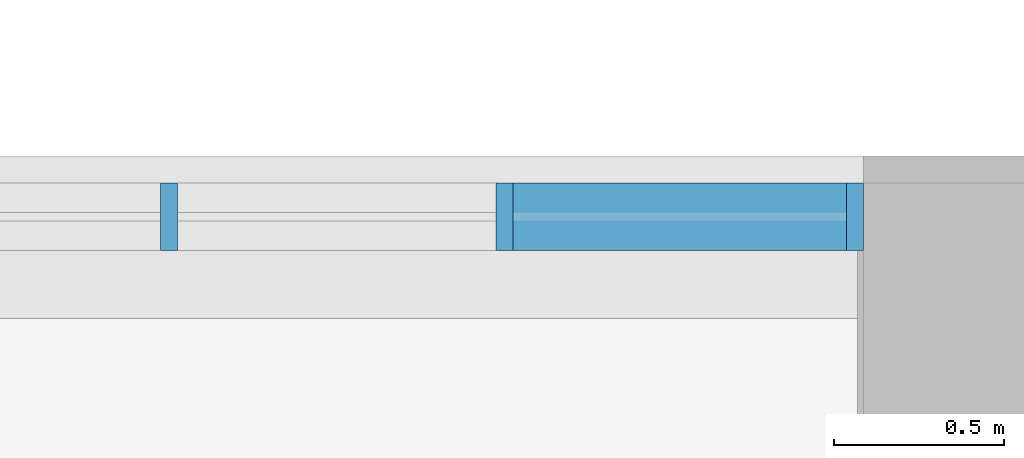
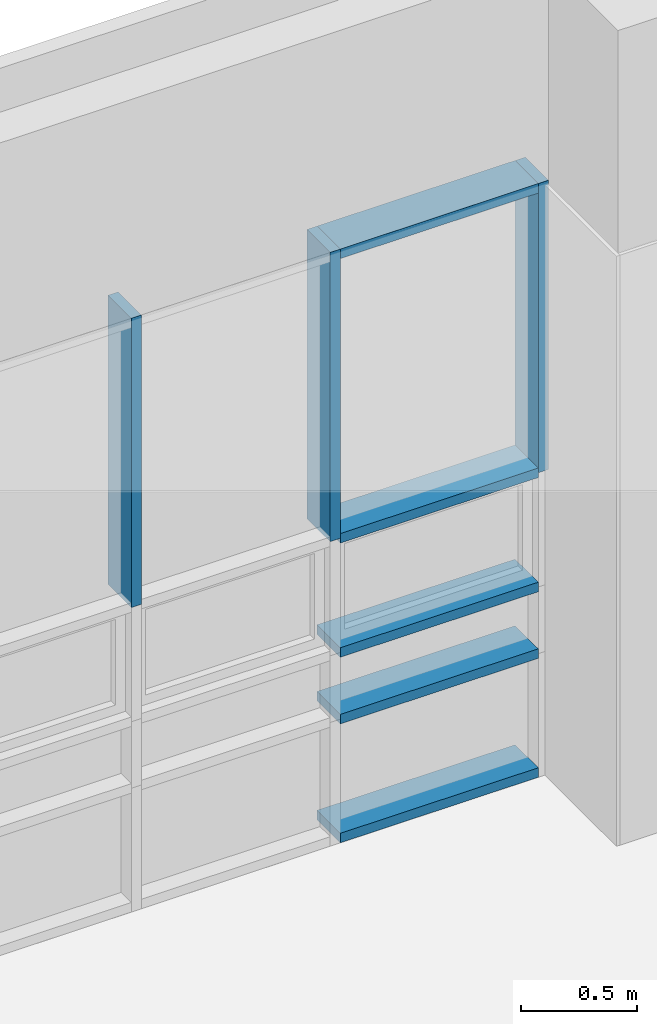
# One storey, part 10 of 74: 8 members, 1 element without a shape of its own.
"""IFC2X3 building model written with IfcOpenShell, lengths in millimetres."""

from ifc_helpers import new_model, entity, si_unit, converted_unit, derived_unit, direction, frame, origin, origin_2d_with_axis, place, context, subcontext, project, spatial, rectangle, extrude, source, transform, mapped, material, type_object, type_shapes, element, aggregate, save


model = new_model("IFC2X3")

# Units and contexts
model_context = context("Model", 3, precision=0.01, world=origin(), true_north=direction((6.123031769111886e-17, 1.0)))
body_context = subcontext(model_context, "Body", "Model", "MODEL_VIEW")
ifc_project = project(units=[si_unit("LENGTHUNIT", "METRE", prefix="MILLI"), si_unit("AREAUNIT", "SQUARE_METRE"), si_unit("VOLUMEUNIT", "CUBIC_METRE"), converted_unit("PLANEANGLEUNIT", "DEGREE", entity("IfcRatioMeasure", 0.017453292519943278), si_unit("PLANEANGLEUNIT", "RADIAN"), dimensions=[0, 0, 0, 0, 0, 0, 0]), si_unit("MASSUNIT", "GRAM", prefix="KILO"), derived_unit("MASSDENSITYUNIT", [(si_unit("MASSUNIT", "GRAM", prefix="KILO"), 1), (si_unit("LENGTHUNIT", "METRE"), -3)]), derived_unit("MOMENTOFINERTIAUNIT", [(si_unit("LENGTHUNIT", "METRE"), 4)]), si_unit("TIMEUNIT", "SECOND"), si_unit("FREQUENCYUNIT", "HERTZ"), si_unit("THERMODYNAMICTEMPERATUREUNIT", "DEGREE_CELSIUS"), derived_unit("THERMALTRANSMITTANCEUNIT", [(si_unit("MASSUNIT", "GRAM", prefix="KILO"), 1), (si_unit("THERMODYNAMICTEMPERATUREUNIT", "KELVIN"), -1), (si_unit("TIMEUNIT", "SECOND"), -3)]), derived_unit("VOLUMETRICFLOWRATEUNIT", [(si_unit("LENGTHUNIT", "METRE"), 3), (si_unit("TIMEUNIT", "SECOND"), -1)]), derived_unit("MASSFLOWRATEUNIT", [(si_unit("MASSUNIT", "GRAM", prefix="KILO"), 1), (si_unit("TIMEUNIT", "SECOND"), -1)]), derived_unit("ROTATIONALFREQUENCYUNIT", [(si_unit("TIMEUNIT", "SECOND"), -1)]), si_unit("ELECTRICCURRENTUNIT", "AMPERE"), si_unit("ELECTRICVOLTAGEUNIT", "VOLT"), si_unit("POWERUNIT", "WATT"), si_unit("FORCEUNIT", "NEWTON", prefix="KILO"), si_unit("ILLUMINANCEUNIT", "LUX"), si_unit("LUMINOUSFLUXUNIT", "LUMEN"), si_unit("LUMINOUSINTENSITYUNIT", "CANDELA"), derived_unit("USERDEFINED", [(si_unit("MASSUNIT", "GRAM", prefix="KILO"), -1), (si_unit("LENGTHUNIT", "METRE"), -2), (si_unit("TIMEUNIT", "SECOND"), 3), (si_unit("LUMINOUSFLUXUNIT", "LUMEN"), 1)]), derived_unit("SOUNDPOWERUNIT", [(si_unit("MASSUNIT", "GRAM", prefix="KILO"), 1), (si_unit("LENGTHUNIT", "METRE"), 2), (si_unit("TIMEUNIT", "SECOND"), -3)]), derived_unit("SOUNDPRESSUREUNIT", [(si_unit("MASSUNIT", "GRAM", prefix="KILO"), 1), (si_unit("LENGTHUNIT", "METRE"), -1), (si_unit("TIMEUNIT", "SECOND"), -2)]), derived_unit("LINEARVELOCITYUNIT", [(si_unit("LENGTHUNIT", "METRE"), 1), (si_unit("TIMEUNIT", "SECOND"), -1)]), si_unit("PRESSUREUNIT", "PASCAL"), derived_unit("USERDEFINED", [(si_unit("LENGTHUNIT", "METRE"), -2), (si_unit("MASSUNIT", "GRAM", prefix="KILO"), 1), (si_unit("TIMEUNIT", "SECOND"), -2)]), derived_unit("LINEARFORCEUNIT", [(si_unit("MASSUNIT", "GRAM", prefix="KILO"), 1), (si_unit("LENGTHUNIT", "METRE"), 1), (si_unit("TIMEUNIT", "SECOND"), -2), (si_unit("LENGTHUNIT", "METRE"), -1)]), derived_unit("PLANARFORCEUNIT", [(si_unit("MASSUNIT", "GRAM", prefix="KILO"), 1), (si_unit("LENGTHUNIT", "METRE"), 1), (si_unit("TIMEUNIT", "SECOND"), -2), (si_unit("LENGTHUNIT", "METRE"), -2)])], contexts=[model_context])

# Site, building, storey
site_placement = place(None, frame((-14167.972527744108, -657.2125860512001, 0.0)))
site = spatial("IfcSite", under=ifc_project, at=site_placement, Name="Default", CompositionType="ELEMENT")
building_placement = place(site_placement, origin())
building = spatial("IfcBuilding", under=site, at=building_placement, Name="Sample Building", CompositionType="ELEMENT")
storey_placement = place(building_placement, frame((0.0, 0.0, 4800.0)))
storey = spatial("IfcBuildingStorey", under=building, at=storey_placement, Name="지상 2층", CompositionType="ELEMENT", Elevation=4800.000000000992)

# Curtain wall, members
curtain_wall_type = type_object("IfcCurtainWallType", Name="커튼월:CW112-스테인리스 스틸 커튼월", PredefinedType="NOTDEFINED")
curtain_wall_placement = place(storey_placement, frame((0.0, 0.0, -4800.0)))
curtain_wall = element("IfcCurtainWall", 1, at=curtain_wall_placement, inside=storey, type_object=curtain_wall_type, Name="커튼월:CW112-스테인리스 스틸 커튼월", ObjectType="커튼월:CW112-스테인리스 스틸 커튼월")
ifc_material = material(Name="<Unnamed>")
member_type_1 = type_object("IfcMemberType", Name="직사각형 멀리언:CW200-직사각형 멀리언 50x200mm", PredefinedType="MULLION", material=ifc_material)
shared_shape_1 = source(origin(), body_context, "Body", "SweptSolid", [
    extrude(rectangle(XDim=200.0, YDim=50.0, at=origin_2d_with_axis()), frame((-25.0, 0.0, -1520.0), z_axis=(0.0, 0.0, 1.0), x_axis=(0.0, -1.0, 0.0)), (0.0, 0.0, 1.0), 1520.0000000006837),
])
type_shapes(member_type_1, [shared_shape_1])
member_1_placement = place(curtain_wall_placement, frame((50667.981214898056, 29157.212295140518, 8000.0)))
member_1 = element("IfcMember", 2, at=member_1_placement, type_object=member_type_1, material=ifc_material, Name="직사각형 멀리언:CW200-직사각형 멀리언 50x200mm", ObjectType="직사각형 멀리언:CW200-직사각형 멀리언 50x200mm", context=body_context, shape_type="MappedRepresentation", body=[
    mapped(shared_shape_1, transform((0.0, 0.0, 0.0), scale=1.0)),
])
member_type_2 = type_object("IfcMemberType", Name="직사각형 멀리언:CW200-직사각형 멀리언 50x200mm", PredefinedType="MULLION", material=ifc_material)
shared_shape_2 = source(origin(), body_context, "Body", "SweptSolid", [
    extrude(rectangle(XDim=200.0, YDim=50.0, at=origin_2d_with_axis()), frame((0.0, 0.0, -1520.0), z_axis=(0.0, 0.0, 1.0), x_axis=(0.0, -1.0, 0.0)), (0.0, 0.0, 1.0), 1520.0000000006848),
])
type_shapes(member_type_2, [shared_shape_2])
member_2_placement = place(curtain_wall_placement, frame((49608.65776964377, 29157.212295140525, 6480.0), z_axis=(0.0, 0.0, -1.0), x_axis=(-1.0, 0.0, 0.0)))
member_2 = element("IfcMember", 3, at=member_2_placement, type_object=member_type_2, material=ifc_material, Name="직사각형 멀리언:CW200-직사각형 멀리언 50x200mm", ObjectType="직사각형 멀리언:CW200-직사각형 멀리언 50x200mm", context=body_context, shape_type="MappedRepresentation", body=[
    mapped(shared_shape_2, transform((0.0, 0.0, 0.0), scale=1.0)),
])
member_3_placement = place(curtain_wall_placement, frame((48619.768880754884, 29157.212295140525, 6480.0), z_axis=(0.0, 0.0, -1.0), x_axis=(-1.0, 0.0, 0.0)))
member_3 = element("IfcMember", 4, at=member_3_placement, type_object=member_type_2, material=ifc_material, Name="직사각형 멀리언:CW200-직사각형 멀리언 50x200mm", ObjectType="직사각형 멀리언:CW200-직사각형 멀리언 50x200mm", context=body_context, shape_type="MappedRepresentation", body=[
    mapped(shared_shape_2, transform((0.0, 0.0, 0.0), scale=1.0)),
])
member_type_3 = type_object("IfcMemberType", Name="직사각형 멀리언:CW200-직사각형 멀리언 50x200mm", PredefinedType="MULLION", material=ifc_material)
shared_shape_3 = source(origin(), body_context, "Body", "SweptSolid", [
    extrude(rectangle(XDim=200.0, YDim=50.0, at=origin_2d_with_axis()), frame((-25.0, 0.0, -984.3234452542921), z_axis=(0.0, 0.0, 1.0), x_axis=(0.0, -1.0, 0.0)), (0.0, 0.0, 1.0), 984.3234452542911),
])
type_shapes(member_type_3, [shared_shape_3])
member_4_placement = place(curtain_wall_placement, frame((50617.98121489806, 29157.212295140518, 4880.0), z_axis=(1.0, 0.0, 0.0), x_axis=(0.0, 0.0, -1.0)))
member_4 = element("IfcMember", 5, at=member_4_placement, type_object=member_type_3, material=ifc_material, Name="직사각형 멀리언:CW200-직사각형 멀리언 50x200mm", ObjectType="직사각형 멀리언:CW200-직사각형 멀리언 50x200mm", context=body_context, shape_type="MappedRepresentation", body=[
    mapped(shared_shape_3, transform((0.0, 0.0, 0.0), scale=1.0)),
])
member_type_4 = type_object("IfcMemberType", Name="직사각형 멀리언:CW200-직사각형 멀리언 50x200mm", PredefinedType="MULLION", material=ifc_material)
shared_shape_4 = source(origin(), body_context, "Body", "SweptSolid", [
    extrude(rectangle(XDim=200.0, YDim=50.0, at=origin_2d_with_axis()), frame((-25.0, 0.0, -984.3234452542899), z_axis=(0.0, 0.0, 1.0), x_axis=(0.0, -1.0, 0.0)), (0.0, 0.0, 1.0), 984.3234452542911),
])
type_shapes(member_type_4, [shared_shape_4])
member_5_placement = place(curtain_wall_placement, frame((49633.657769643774, 29157.212295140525, 8000.0), z_axis=(-1.0, 0.0, 0.0), x_axis=(0.0, 0.0, 1.0)))
member_5 = element("IfcMember", 6, at=member_5_placement, type_object=member_type_4, material=ifc_material, Name="직사각형 멀리언:CW200-직사각형 멀리언 50x200mm", ObjectType="직사각형 멀리언:CW200-직사각형 멀리언 50x200mm", context=body_context, shape_type="MappedRepresentation", body=[
    mapped(shared_shape_4, transform((0.0, 0.0, 0.0), scale=1.0)),
])
member_type_5 = type_object("IfcMemberType", Name="직사각형 멀리언:CW200-직사각형 멀리언 50x200mm", PredefinedType="MULLION", material=ifc_material)
shared_shape_5 = source(origin(), body_context, "Body", "SweptSolid", [
    extrude(rectangle(XDim=200.0, YDim=50.0, at=origin_2d_with_axis()), frame((0.0, 0.0, -984.3234452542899), z_axis=(0.0, 0.0, 1.0), x_axis=(0.0, -1.0, 0.0)), (0.0, 0.0, 1.0), 984.3234452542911),
])
type_shapes(member_type_5, [shared_shape_5])
member_6_placement = place(curtain_wall_placement, frame((49633.657769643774, 29157.212295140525, 6480.0), z_axis=(-1.0, 0.0, 0.0), x_axis=(0.0, 0.0, 1.0)))
member_6 = element("IfcMember", 7, at=member_6_placement, type_object=member_type_5, material=ifc_material, Name="직사각형 멀리언:CW200-직사각형 멀리언 50x200mm", ObjectType="직사각형 멀리언:CW200-직사각형 멀리언 50x200mm", context=body_context, shape_type="MappedRepresentation", body=[
    mapped(shared_shape_5, transform((0.0, 0.0, 0.0), scale=1.0)),
])
member_7_placement = place(curtain_wall_placement, frame((49633.657769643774, 29157.212295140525, 5880.0), z_axis=(-1.0, 0.0, 0.0), x_axis=(0.0, 0.0, 1.0)))
member_7 = element("IfcMember", 8, at=member_7_placement, type_object=member_type_5, material=ifc_material, Name="직사각형 멀리언:CW200-직사각형 멀리언 50x200mm", ObjectType="직사각형 멀리언:CW200-직사각형 멀리언 50x200mm", context=body_context, shape_type="MappedRepresentation", body=[
    mapped(shared_shape_5, transform((0.0, 0.0, 0.0), scale=1.0)),
])
member_8_placement = place(curtain_wall_placement, frame((49633.657769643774, 29157.212295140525, 5530.0), z_axis=(-1.0, 0.0, 0.0), x_axis=(0.0, 0.0, 1.0)))
member_8 = element("IfcMember", 9, at=member_8_placement, type_object=member_type_5, material=ifc_material, Name="직사각형 멀리언:CW200-직사각형 멀리언 50x200mm", ObjectType="직사각형 멀리언:CW200-직사각형 멀리언 50x200mm", context=body_context, shape_type="MappedRepresentation", body=[
    mapped(shared_shape_5, transform((0.0, 0.0, 0.0), scale=1.0)),
])
aggregate(curtain_wall, [member_4, member_1, member_5, member_6, member_2, member_3, member_7, member_8])

save(model, "model.ifc")
